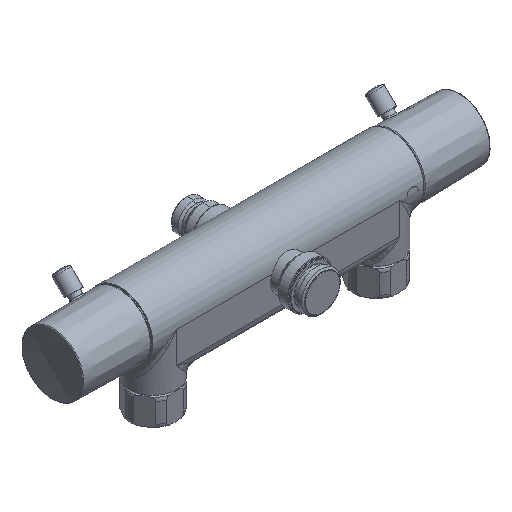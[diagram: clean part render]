
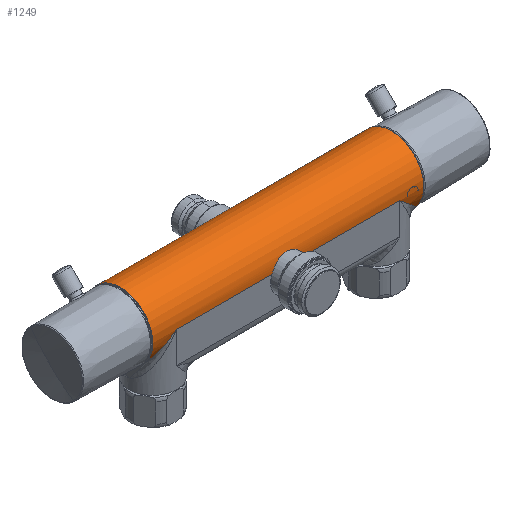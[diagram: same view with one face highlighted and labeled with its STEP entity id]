
A CAD part, isometric view. The second image highlights one B-rep face of the part: STEP entity #1249.
In plain terms, the highlighted cylindrical face has radius 21.75 mm (diameter 43.5 mm), a partial arc.
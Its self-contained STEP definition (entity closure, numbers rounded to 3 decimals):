
#22=CARTESIAN_POINT('',(91.,0.,0.));
#23=DIRECTION('',(1.,0.,0.));
#24=DIRECTION('',(0.,0.375,-0.927));
#25=AXIS2_PLACEMENT_3D('',#22,#23,#24);
#78=CARTESIAN_POINT('',(-91.,0.,0.));
#79=DIRECTION('',(1.,0.,0.));
#80=DIRECTION('',(0.,0.375,-0.927));
#81=AXIS2_PLACEMENT_3D('',#78,#79,#80);
#302=CARTESIAN_POINT('',(75.,-21.75,0.));
#303=CARTESIAN_POINT('',(75.937,-21.75,
-0.792));
#304=CARTESIAN_POINT('',(77.677,-21.663,-2.264));
#305=CARTESIAN_POINT('',(79.82,-21.386,-4.08));
#306=CARTESIAN_POINT('',(81.669,-21.021,-5.653));
#307=CARTESIAN_POINT('',(83.329,-20.587,-7.068));
#308=CARTESIAN_POINT('',(84.949,-20.058,-8.457));
#309=CARTESIAN_POINT('',(86.584,-19.404,-9.868));
#310=CARTESIAN_POINT('',(88.191,-18.629,-11.265));
#311=CARTESIAN_POINT('',(89.709,-17.751,-12.6));
#312=CARTESIAN_POINT('',(90.587,-17.152,-13.382));
#313=CARTESIAN_POINT('',(91.,-16.85,-13.753));
#315=DIRECTION('',(1.,0.,0.));
#316=VECTOR('',#315,64.038);
#317=CARTESIAN_POINT('',(10.962,-21.75,0.));
#318=LINE('',#317,#316);
#319=CARTESIAN_POINT('',(10.962,-21.75,0.));
#320=CARTESIAN_POINT('',(10.67,-21.75,0.711));
#321=CARTESIAN_POINT('',(9.959,-21.681,2.054));
#322=CARTESIAN_POINT('',(8.519,-21.43,3.844));
#323=CARTESIAN_POINT('',(6.73,-21.097,5.348));
#324=CARTESIAN_POINT('',(4.646,-20.767,6.489));
#325=CARTESIAN_POINT('',(2.346,-20.527,7.196));
#326=CARTESIAN_POINT('',(0.792,-20.47,7.35));
#327=CARTESIAN_POINT('',(0.,-20.47,7.35));
#329=CARTESIAN_POINT('',(0.,-20.47,7.35));
#330=CARTESIAN_POINT('',(-0.792,-20.47,7.35));
#331=CARTESIAN_POINT('',(-2.346,-20.527,7.196));
#332=CARTESIAN_POINT('',(-4.646,-20.767,6.489));
#333=CARTESIAN_POINT('',(-6.73,-21.097,5.348));
#334=CARTESIAN_POINT('',(-8.519,-21.429,3.845));
#335=CARTESIAN_POINT('',(-9.959,-21.681,2.055));
#336=CARTESIAN_POINT('',(-10.67,-21.75,0.711));
#337=CARTESIAN_POINT('',(-10.962,-21.75,0.));
#339=DIRECTION('',(1.,0.,0.));
#340=VECTOR('',#339,64.038);
#341=CARTESIAN_POINT('',(-75.,-21.75,0.));
#342=LINE('',#341,#340);
#343=CARTESIAN_POINT('',(-91.,-16.85,-13.753));
#344=CARTESIAN_POINT('',(-90.589,-17.151,
-13.384));
#345=CARTESIAN_POINT('',(-89.719,-17.744,
-12.609));
#346=CARTESIAN_POINT('',(-88.231,-18.606,
-11.3));
#347=CARTESIAN_POINT('',(-86.661,-19.37,
-9.934));
#348=CARTESIAN_POINT('',(-85.044,-20.023,
-8.538));
#349=CARTESIAN_POINT('',(-83.403,-20.566,
-7.132));
#350=CARTESIAN_POINT('',(-81.696,-21.016,
-5.675));
#351=CARTESIAN_POINT('',(-79.801,-21.39,
-4.065));
#352=CARTESIAN_POINT('',(-77.636,-21.666,
-2.229));
#353=CARTESIAN_POINT('',(-75.918,-21.75,
-0.776));
#354=CARTESIAN_POINT('',(-75.,-21.75,0.));
#356=CARTESIAN_POINT('',(-61.47,9.721,-19.457));
#357=CARTESIAN_POINT('',(-62.627,10.358,-19.138));
#358=CARTESIAN_POINT('',(-64.944,11.389,-18.549));
#359=CARTESIAN_POINT('',(-68.417,12.392,-17.882));
#360=CARTESIAN_POINT('',(-71.636,12.917,-17.5));
#361=CARTESIAN_POINT('',(-74.693,13.098,-17.364));
#362=CARTESIAN_POINT('',(-77.735,12.98,-17.453));
#363=CARTESIAN_POINT('',(-80.928,12.528,-17.785));
#364=CARTESIAN_POINT('',(-84.366,11.634,-18.395));
#365=CARTESIAN_POINT('',(-87.942,10.143,-19.273));
#366=CARTESIAN_POINT('',(-90.012,8.875,-19.872));
#367=CARTESIAN_POINT('',(-91.,8.151,-20.165));
#369=DIRECTION('',(1.,0.,0.));
#370=VECTOR('',#369,122.939);
#371=CARTESIAN_POINT('',(-61.47,9.721,-19.457));
#372=LINE('',#371,#370);
#373=CARTESIAN_POINT('',(91.,8.151,-20.165));
#374=CARTESIAN_POINT('',(90.012,8.875,-19.872));
#375=CARTESIAN_POINT('',(87.942,10.143,-19.273));
#376=CARTESIAN_POINT('',(84.366,11.634,-18.395));
#377=CARTESIAN_POINT('',(80.928,12.528,-17.785));
#378=CARTESIAN_POINT('',(77.735,12.98,-17.453));
#379=CARTESIAN_POINT('',(74.693,13.098,-17.364));
#380=CARTESIAN_POINT('',(71.636,12.917,-17.5));
#381=CARTESIAN_POINT('',(68.417,12.392,-17.882));
#382=CARTESIAN_POINT('',(64.944,11.389,-18.549));
#383=CARTESIAN_POINT('',(62.627,10.358,-19.138));
#384=CARTESIAN_POINT('',(61.47,9.721,-19.457));
#980=CARTESIAN_POINT('',(75.,-21.75,0.));
#981=VERTEX_POINT('',#980);
#982=CARTESIAN_POINT('',(-75.,-21.75,0.));
#983=VERTEX_POINT('',#982);
#984=CARTESIAN_POINT('',(-61.47,9.721,-19.457));
#985=CARTESIAN_POINT('',(61.47,9.721,-19.457));
#986=VERTEX_POINT('',#984);
#987=VERTEX_POINT('',#985);
#992=CARTESIAN_POINT('',(91.,8.151,-20.165));
#993=CARTESIAN_POINT('',(91.,-16.85,-13.753));
#994=VERTEX_POINT('',#992);
#995=VERTEX_POINT('',#993);
#1006=CARTESIAN_POINT('',(-91.,8.151,-20.165));
#1007=CARTESIAN_POINT('',(-91.,-16.85,-13.753));
#1008=VERTEX_POINT('',#1006);
#1009=VERTEX_POINT('',#1007);
#1012=VERTEX_POINT('',#329);
#1013=VERTEX_POINT('',#337);
#1016=VERTEX_POINT('',#319);
#1222=CARTESIAN_POINT('',(-92.5,0.,0.));
#1223=DIRECTION('',(1.,0.,0.));
#1224=DIRECTION('',(0.,0.,1.));
#1225=AXIS2_PLACEMENT_3D('',#1222,#1223,#1224);
#1226=CYLINDRICAL_SURFACE('',#1225,21.75);
#1227=ORIENTED_EDGE('',*,*,#1056,.T.);
#1229=ORIENTED_EDGE('',*,*,#1228,.F.);
#1231=ORIENTED_EDGE('',*,*,#1230,.F.);
#1233=ORIENTED_EDGE('',*,*,#1232,.T.);
#1235=ORIENTED_EDGE('',*,*,#1234,.T.);
#1237=ORIENTED_EDGE('',*,*,#1236,.F.);
#1239=ORIENTED_EDGE('',*,*,#1238,.F.);
#1240=ORIENTED_EDGE('',*,*,#1121,.F.);
#1242=ORIENTED_EDGE('',*,*,#1241,.F.);
#1244=ORIENTED_EDGE('',*,*,#1243,.T.);
#1246=ORIENTED_EDGE('',*,*,#1245,.F.);
#1247=EDGE_LOOP('',(#1227,#1229,#1231,#1233,#1235,#1237,#1239,#1240,#1242,#1244,
#1246));
#1248=FACE_OUTER_BOUND('',#1247,.F.);
#26=CIRCLE('',#25,21.75);
#82=CIRCLE('',#81,21.75);
#314=B_SPLINE_CURVE_WITH_KNOTS('',3,(#302,#303,#304,#305,#306,#307,#308,#309,
#310,#311,#312,#313),.UNSPECIFIED.,.F.,.F.,(4,1,1,1,1,1,1,1,1,4),(0.,
0.111,0.222,0.333,0.444,
0.556,0.667,0.778,0.889,1.),
.UNSPECIFIED.);
#328=B_SPLINE_CURVE_WITH_KNOTS('',3,(#319,#320,#321,#322,#323,#324,#325,#326,
#327),.UNSPECIFIED.,.F.,.F.,(4,1,1,1,1,1,4),(0.,0.167,
0.333,0.5,0.667,0.833,1.),
.UNSPECIFIED.);
#338=B_SPLINE_CURVE_WITH_KNOTS('',3,(#329,#330,#331,#332,#333,#334,#335,#336,
#337),.UNSPECIFIED.,.F.,.F.,(4,1,1,1,1,1,4),(0.,0.167,
0.333,0.5,0.667,0.833,1.),
.UNSPECIFIED.);
#355=B_SPLINE_CURVE_WITH_KNOTS('',3,(#343,#344,#345,#346,#347,#348,#349,#350,
#351,#352,#353,#354),.UNSPECIFIED.,.F.,.F.,(4,1,1,1,1,1,1,1,1,4),(0.,
0.111,0.222,0.333,0.444,
0.556,0.667,0.778,0.889,1.),
.UNSPECIFIED.);
#368=B_SPLINE_CURVE_WITH_KNOTS('',3,(#356,#357,#358,#359,#360,#361,#362,#363,
#364,#365,#366,#367),.UNSPECIFIED.,.F.,.F.,(4,1,1,1,1,1,1,1,1,4),(0.,
0.111,0.222,0.333,0.444,
0.556,0.667,0.778,0.889,1.),
.UNSPECIFIED.);
#385=B_SPLINE_CURVE_WITH_KNOTS('',3,(#373,#374,#375,#376,#377,#378,#379,#380,
#381,#382,#383,#384),.UNSPECIFIED.,.F.,.F.,(4,1,1,1,1,1,1,1,1,4),(0.,
0.111,0.222,0.333,0.444,
0.556,0.667,0.778,0.889,1.),
.UNSPECIFIED.);
#1056=EDGE_CURVE('',#994,#995,#26,.T.);
#1121=EDGE_CURVE('',#1008,#1009,#82,.T.);
#1228=EDGE_CURVE('',#981,#995,#314,.T.);
#1230=EDGE_CURVE('',#1016,#981,#318,.T.);
#1232=EDGE_CURVE('',#1016,#1012,#328,.T.);
#1234=EDGE_CURVE('',#1012,#1013,#338,.T.);
#1236=EDGE_CURVE('',#983,#1013,#342,.T.);
#1238=EDGE_CURVE('',#1009,#983,#355,.T.);
#1241=EDGE_CURVE('',#986,#1008,#368,.T.);
#1243=EDGE_CURVE('',#986,#987,#372,.T.);
#1245=EDGE_CURVE('',#994,#987,#385,.T.);
#1249=ADVANCED_FACE('',(#1248),#1226,.T.);
